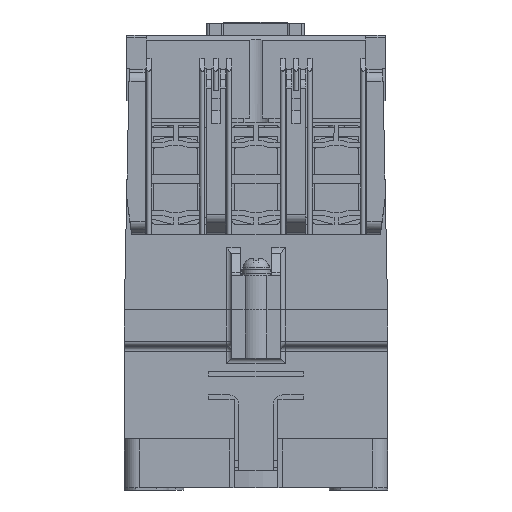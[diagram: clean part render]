
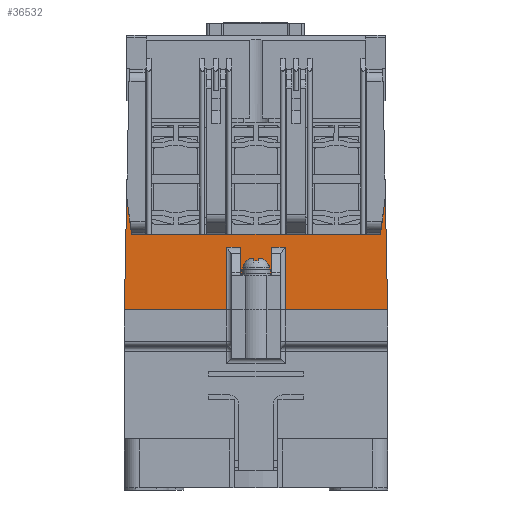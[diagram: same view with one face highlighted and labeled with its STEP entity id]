
A CAD part, front view. The second image highlights one B-rep face of the part: STEP entity #36532.
In plain terms, the highlighted planar face has unit normal (0, -1, 0).
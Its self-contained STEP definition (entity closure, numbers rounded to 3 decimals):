
#222 = CARTESIAN_POINT ( 'NONE',  ( -6., -33., -49.5 ) ) ;
#1121 = DIRECTION ( 'NONE',  ( 1., 0., 0. ) ) ;
#1705 = VERTEX_POINT ( 'NONE', #17656 ) ;
#3010 = CARTESIAN_POINT ( 'NONE',  ( -27., -33., -49.5 ) ) ;
#3026 = CARTESIAN_POINT ( 'NONE',  ( 6., -33., -56. ) ) ;
#3791 = ORIENTED_EDGE ( 'NONE', *, *, #34258, .T. ) ;
#4011 = LINE ( 'NONE', #39157, #32469 ) ;
#4104 = CARTESIAN_POINT ( 'NONE',  ( -25.55, -33., -34. ) ) ;
#4421 = EDGE_CURVE ( 'NONE', #45639, #28498, #42867, .T. ) ;
#4544 = VECTOR ( 'NONE', #19502, 1000. ) ;
#4582 = LINE ( 'NONE', #18847, #31934 ) ;
#5150 = VECTOR ( 'NONE', #21618, 1000. ) ;
#5603 = EDGE_CURVE ( 'NONE', #44116, #1705, #16445, .T. ) ;
#5680 = ORIENTED_EDGE ( 'NONE', *, *, #8610, .T. ) ;
#6616 = ORIENTED_EDGE ( 'NONE', *, *, #4421, .F. ) ;
#6892 = EDGE_CURVE ( 'NONE', #40325, #45378, #30296, .T. ) ;
#7192 = LINE ( 'NONE', #17359, #16672 ) ;
#7337 = CARTESIAN_POINT ( 'NONE',  ( 26.53, -33., -26.229 ) ) ;
#7849 = CARTESIAN_POINT ( 'NONE',  ( -27., -33., -49.5 ) ) ;
#8610 = EDGE_CURVE ( 'NONE', #1705, #42830, #43648, .T. ) ;
#9213 = EDGE_CURVE ( 'NONE', #25595, #14950, #31901, .T. ) ;
#9346 = ORIENTED_EDGE ( 'NONE', *, *, #31912, .T. ) ;
#9600 = DIRECTION ( 'NONE',  ( 0., 0., -1. ) ) ;
#10092 = CARTESIAN_POINT ( 'NONE',  ( -5., -33., -36.672 ) ) ;
#10790 = LINE ( 'NONE', #3026, #38189 ) ;
#11037 = VECTOR ( 'NONE', #21501, 1000. ) ;
#11263 = DIRECTION ( 'NONE',  ( -0.125, 0., 0.992 ) ) ;
#12640 = CARTESIAN_POINT ( 'NONE',  ( -3.2, -33., -42.5 ) ) ;
#13006 = CARTESIAN_POINT ( 'NONE',  ( -27., -33., -49.5 ) ) ;
#13238 = VECTOR ( 'NONE', #40162, 1000. ) ;
#13902 = FACE_OUTER_BOUND ( 'NONE', #19707, .T. ) ;
#14437 = DIRECTION ( 'NONE',  ( 1., 0., 0. ) ) ;
#14950 = VERTEX_POINT ( 'NONE', #26635 ) ;
#15068 = ORIENTED_EDGE ( 'NONE', *, *, #33887, .F. ) ;
#15171 = CARTESIAN_POINT ( 'NONE',  ( 25.55, -33., -34. ) ) ;
#15773 = CARTESIAN_POINT ( 'NONE',  ( -26.53, -33., -26.229 ) ) ;
#16445 = LINE ( 'NONE', #19376, #35482 ) ;
#16672 = VECTOR ( 'NONE', #38799, 1000. ) ;
#17058 = CARTESIAN_POINT ( 'NONE',  ( -6., -33., -49.5 ) ) ;
#17278 = ORIENTED_EDGE ( 'NONE', *, *, #40502, .F. ) ;
#17359 = CARTESIAN_POINT ( 'NONE',  ( 3.2, -33., 9.501 ) ) ;
#17406 = LINE ( 'NONE', #4104, #34196 ) ;
#17433 = VECTOR ( 'NONE', #24778, 1000. ) ;
#17656 = CARTESIAN_POINT ( 'NONE',  ( -3.2, -33., -36.672 ) ) ;
#17835 = CARTESIAN_POINT ( 'NONE',  ( 0., -33., -34. ) ) ;
#18352 = CARTESIAN_POINT ( 'NONE',  ( -6., -33., -36.672 ) ) ;
#18847 = CARTESIAN_POINT ( 'NONE',  ( -27., -33., -49.5 ) ) ;
#19183 = CARTESIAN_POINT ( 'NONE',  ( -27., -33., -34. ) ) ;
#19376 = CARTESIAN_POINT ( 'NONE',  ( -5., -33., -36.672 ) ) ;
#19502 = DIRECTION ( 'NONE',  ( 0., 0., -1. ) ) ;
#19707 = EDGE_LOOP ( 'NONE', ( #36792, #3791, #41105, #45156, #5680, #17278, #36754, #34924, #21079, #23104, #6616, #15068, #43159, #33958, #9346 ) ) ;
#19962 = CARTESIAN_POINT ( 'NONE',  ( 27., -33., -49.5 ) ) ;
#20920 = DIRECTION ( 'NONE',  ( 0., 0., -1. ) ) ;
#21079 = ORIENTED_EDGE ( 'NONE', *, *, #23058, .T. ) ;
#21465 = VECTOR ( 'NONE', #36999, 1000. ) ;
#21501 = DIRECTION ( 'NONE',  ( 0., 0., 1. ) ) ;
#21618 = DIRECTION ( 'NONE',  ( 0.125, 0., 0.992 ) ) ;
#21777 = CARTESIAN_POINT ( 'NONE',  ( 6., -33., -49.5 ) ) ;
#22910 = DIRECTION ( 'NONE',  ( 1., 0., 0. ) ) ;
#23021 = LINE ( 'NONE', #12640, #31462 ) ;
#23058 = EDGE_CURVE ( 'NONE', #14950, #44084, #10790, .T. ) ;
#23104 = ORIENTED_EDGE ( 'NONE', *, *, #23851, .T. ) ;
#23374 = DIRECTION ( 'NONE',  ( -1., 0., 0. ) ) ;
#23640 = CARTESIAN_POINT ( 'NONE',  ( -25.55, -33., -34. ) ) ;
#23851 = EDGE_CURVE ( 'NONE', #44084, #28498, #4582, .T. ) ;
#24778 = DIRECTION ( 'NONE',  ( 0.02, 0., 1. ) ) ;
#25211 = CARTESIAN_POINT ( 'NONE',  ( 25.55, -33., -34. ) ) ;
#25231 = LINE ( 'NONE', #25211, #5150 ) ;
#25252 = AXIS2_PLACEMENT_3D ( 'NONE', #13006, #30951, #9600 ) ;
#25595 = VERTEX_POINT ( 'NONE', #36654 ) ;
#26635 = CARTESIAN_POINT ( 'NONE',  ( 6., -33., -36.672 ) ) ;
#26683 = EDGE_CURVE ( 'NONE', #33487, #44116, #42831, .T. ) ;
#27061 = VERTEX_POINT ( 'NONE', #23640 ) ;
#27347 = PLANE ( 'NONE',  #25252 ) ;
#28498 = VERTEX_POINT ( 'NONE', #19962 ) ;
#29469 = VERTEX_POINT ( 'NONE', #15171 ) ;
#30238 = EDGE_CURVE ( 'NONE', #27061, #45085, #30987, .T. ) ;
#30287 = VECTOR ( 'NONE', #33222, 1000. ) ;
#30296 = LINE ( 'NONE', #3010, #17433 ) ;
#30874 = CARTESIAN_POINT ( 'NONE',  ( -3.2, -33., 9.501 ) ) ;
#30951 = DIRECTION ( 'NONE',  ( 0., -1., 0. ) ) ;
#30987 = LINE ( 'NONE', #19183, #21465 ) ;
#31462 = VECTOR ( 'NONE', #23374, 1000. ) ;
#31901 = LINE ( 'NONE', #10092, #42543 ) ;
#31912 = EDGE_CURVE ( 'NONE', #27061, #45378, #17406, .T. ) ;
#31934 = VECTOR ( 'NONE', #1121, 1000. ) ;
#32469 = VECTOR ( 'NONE', #14437, 1000. ) ;
#33222 = DIRECTION ( 'NONE',  ( 1., 0., 0. ) ) ;
#33487 = VERTEX_POINT ( 'NONE', #17058 ) ;
#33887 = EDGE_CURVE ( 'NONE', #29469, #45639, #25231, .T. ) ;
#33958 = ORIENTED_EDGE ( 'NONE', *, *, #30238, .F. ) ;
#34196 = VECTOR ( 'NONE', #11263, 1000. ) ;
#34258 = EDGE_CURVE ( 'NONE', #40325, #33487, #4011, .T. ) ;
#34924 = ORIENTED_EDGE ( 'NONE', *, *, #9213, .T. ) ;
#35081 = DIRECTION ( 'NONE',  ( 1., 0., 0. ) ) ;
#35482 = VECTOR ( 'NONE', #22910, 1000. ) ;
#36128 = VERTEX_POINT ( 'NONE', #43463 ) ;
#36532 = ADVANCED_FACE ( 'NONE', ( #13902 ), #27347, .T. ) ;
#36651 = EDGE_CURVE ( 'NONE', #25595, #36128, #7192, .T. ) ;
#36654 = CARTESIAN_POINT ( 'NONE',  ( 3.2, -33., -36.672 ) ) ;
#36680 = CARTESIAN_POINT ( 'NONE',  ( -27., -33., -34. ) ) ;
#36754 = ORIENTED_EDGE ( 'NONE', *, *, #36651, .F. ) ;
#36792 = ORIENTED_EDGE ( 'NONE', *, *, #6892, .F. ) ;
#36999 = DIRECTION ( 'NONE',  ( 1., 0., 0. ) ) ;
#38189 = VECTOR ( 'NONE', #20920, 1000. ) ;
#38799 = DIRECTION ( 'NONE',  ( 0., 0., -1. ) ) ;
#39157 = CARTESIAN_POINT ( 'NONE',  ( -27., -33., -49.5 ) ) ;
#39454 = CARTESIAN_POINT ( 'NONE',  ( -3.2, -33., -42.5 ) ) ;
#40162 = DIRECTION ( 'NONE',  ( 0.02, 0., -1. ) ) ;
#40325 = VERTEX_POINT ( 'NONE', #7849 ) ;
#40502 = EDGE_CURVE ( 'NONE', #36128, #42830, #23021, .T. ) ;
#40951 = LINE ( 'NONE', #36680, #30287 ) ;
#40965 = EDGE_CURVE ( 'NONE', #45085, #29469, #40951, .T. ) ;
#41105 = ORIENTED_EDGE ( 'NONE', *, *, #26683, .T. ) ;
#42543 = VECTOR ( 'NONE', #35081, 1000. ) ;
#42830 = VERTEX_POINT ( 'NONE', #39454 ) ;
#42831 = LINE ( 'NONE', #222, #11037 ) ;
#42867 = LINE ( 'NONE', #43738, #13238 ) ;
#43159 = ORIENTED_EDGE ( 'NONE', *, *, #40965, .F. ) ;
#43463 = CARTESIAN_POINT ( 'NONE',  ( 3.2, -33., -42.5 ) ) ;
#43648 = LINE ( 'NONE', #30874, #4544 ) ;
#43738 = CARTESIAN_POINT ( 'NONE',  ( 26.978, -33., -48.41 ) ) ;
#44084 = VERTEX_POINT ( 'NONE', #21777 ) ;
#44116 = VERTEX_POINT ( 'NONE', #18352 ) ;
#45085 = VERTEX_POINT ( 'NONE', #17835 ) ;
#45156 = ORIENTED_EDGE ( 'NONE', *, *, #5603, .T. ) ;
#45378 = VERTEX_POINT ( 'NONE', #15773 ) ;
#45639 = VERTEX_POINT ( 'NONE', #7337 ) ;
